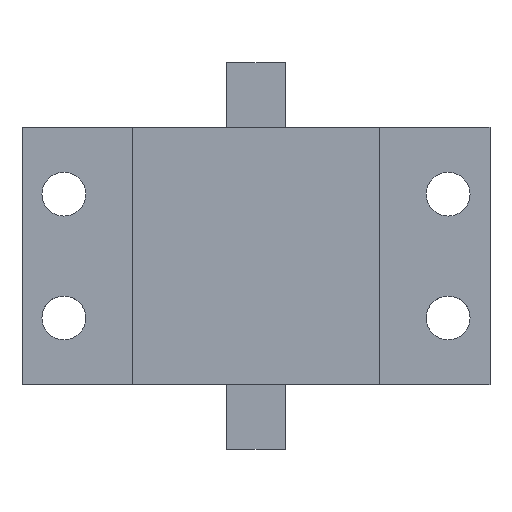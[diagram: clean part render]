
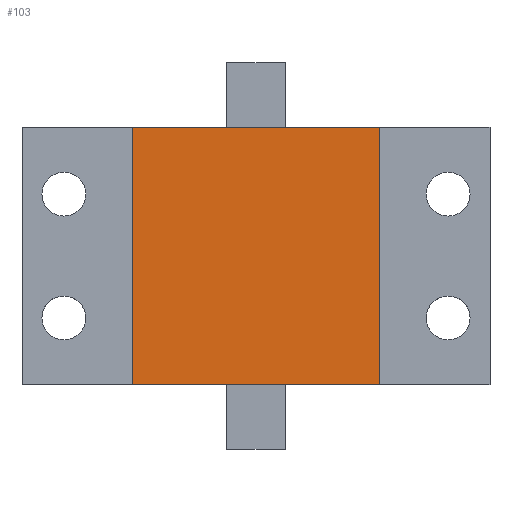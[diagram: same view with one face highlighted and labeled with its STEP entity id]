
A CAD part, top view. The second image highlights one B-rep face of the part: STEP entity #103.
In plain terms, the highlighted planar face has unit normal (0, 0, 1).
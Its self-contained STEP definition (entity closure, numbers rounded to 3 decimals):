
#103=ADVANCED_FACE('',(#311),#313,.T.);
#311=FACE_BOUND('',#312,.T.);
#312=EDGE_LOOP('',(#498,#499,#500,#501));
#313=PLANE('',#314);
#314=AXIS2_PLACEMENT_3D('',#315,#316,#317);
#315=CARTESIAN_POINT('',(0.,0.,10.));
#316=DIRECTION('',(0.,0.,1.));
#317=DIRECTION('',(-1.,0.,0.));
#498=ORIENTED_EDGE('',*,*,#602,.T.);
#499=ORIENTED_EDGE('',*,*,#603,.T.);
#500=ORIENTED_EDGE('',*,*,#582,.T.);
#501=ORIENTED_EDGE('',*,*,#604,.T.);
#582=EDGE_CURVE('',#638,#639,#640,.T.);
#602=EDGE_CURVE('',#674,#675,#676,.T.);
#603=EDGE_CURVE('',#675,#638,#677,.T.);
#604=EDGE_CURVE('',#639,#674,#678,.T.);
#638=VERTEX_POINT('',#734);
#639=VERTEX_POINT('',#735);
#640=LINE('',#736,#737);
#674=VERTEX_POINT('',#810);
#675=VERTEX_POINT('',#811);
#676=LINE('',#812,#813);
#677=LINE('',#815,#816);
#678=LINE('',#818,#819);
#734=CARTESIAN_POINT('',(12.7,13.2,10.));
#735=CARTESIAN_POINT('',(-12.7,13.2,10.));
#736=CARTESIAN_POINT('',(12.7,13.2,10.));
#737=VECTOR('',#738,1.);
#738=DIRECTION('',(-1.,0.,0.));
#810=CARTESIAN_POINT('',(-12.7,-13.2,10.));
#811=CARTESIAN_POINT('',(12.7,-13.2,10.));
#812=CARTESIAN_POINT('',(-12.7,-13.2,10.));
#813=VECTOR('',#814,1.);
#814=DIRECTION('',(1.,0.,0.));
#815=CARTESIAN_POINT('',(12.7,-13.2,10.));
#816=VECTOR('',#817,1.);
#817=DIRECTION('',(0.,1.,0.));
#818=CARTESIAN_POINT('',(-12.7,13.2,10.));
#819=VECTOR('',#820,1.);
#820=DIRECTION('',(0.,-1.,0.));
